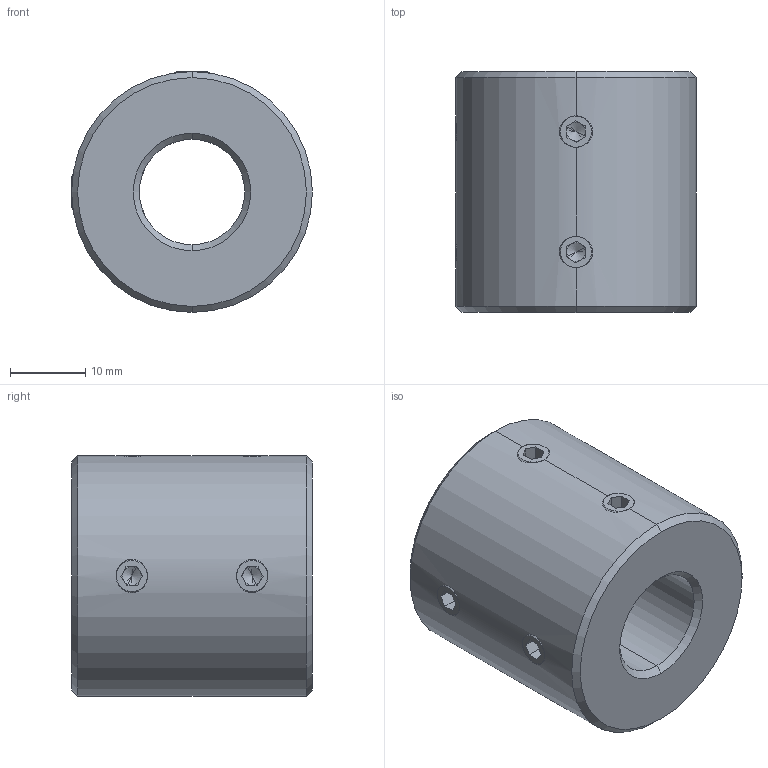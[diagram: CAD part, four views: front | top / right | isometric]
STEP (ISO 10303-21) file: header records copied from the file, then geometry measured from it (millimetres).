
FILE_DESCRIPTION (( 'STEP AP214' ), '1' );
FILE_NAME ('LL-D-D32L32-14-14½¨Ä£.STEP', '2022-07-22T11:34:26', ( '' ), ( '' ), 'SwSTEP 2.0', 'SolidWorks 2022', '' );
FILE_SCHEMA (( 'AUTOMOTIVE_DESIGN' ));
Length unit declared in the file: millimetre
Products named in the file (1): LL-D-D32L32-14-14膘耀
Bounding box: 32 x 32 x 32 mm (x, y, z)
Volume: 20608.5 mm3; surface area: 5950 mm2
Topology: 1 solids, 1 shells, 110 faces, 280 edges, 172 vertices
Faces by surface type: plane 58, cone 32, cylinder 20
Entity records: 3674 total; most frequent: CARTESIAN_POINT 1031, ORIENTED_EDGE 544, DIRECTION 542, EDGE_CURVE 272, AXIS2_PLACEMENT_3D 199, VERTEX_POINT 172, LINE 144, VECTOR 144
